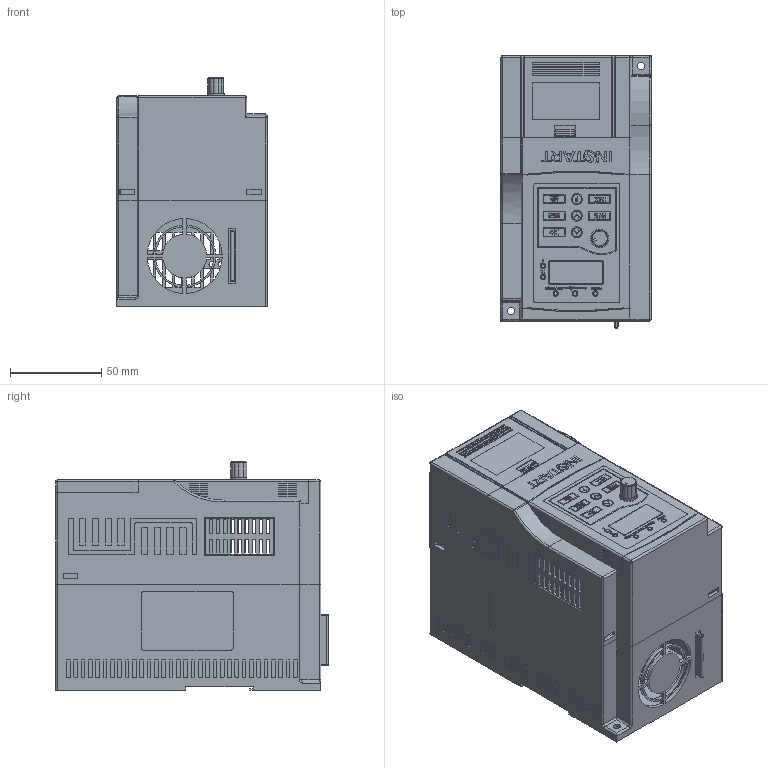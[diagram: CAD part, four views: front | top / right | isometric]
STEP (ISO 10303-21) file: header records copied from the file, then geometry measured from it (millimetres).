
FILE_DESCRIPTION(('STEP AP203'), '1');
FILE_NAME('Ïðåîáðàçîâàòåëü ÷àñòîòû _ SDI-G1.5-4B', '', ('UNSPECIFIED'), ('UNSPECIFIED'), 'C3D Converter', 'C3D Toolkit', '');
FILE_SCHEMA(('CONFIG_CONTROL_DESIGN'));
Length unit declared in the file: millimetre
Products named in the file (6): SDI-G1.5-4B
Assembly tree (5 placements, depth 2):
  SDI-G1.5-4B
    SDI-G1.5-4B
    SDI-G1.5-4B
    SDI-G1.5-4B
    SDI-G1.5-4B
    SDI-G1.5-4B
Bounding box: 82 x 149 x 125 mm (x, y, z)
Volume: 277306.4 mm3; surface area: 176298.5 mm2
Topology: 6 solids, 6 shells, 3706 faces, 10022 edges, 6632 vertices
Faces by surface type: plane 2105, extrusion 844, cylinder 739, sphere 9, torus 9
Full cylindrical faces by diameter (mm): 2 x5, 3 x13, 3.9 x16, 4 x2, 5 x3, 5.2 x9, 6 x3, 6.354 x2, 8 x1, 9 x1, 10 x1
Entity records: 169308 total; most frequent: CARTESIAN_POINT 49759, ORIENTED_EDGE 19900, DIRECTION 16249, EDGE_CURVE 9950, VECTOR 7607, LINE 6763, VERTEX_POINT 6629, AXIS2_PLACEMENT_3D 4321
